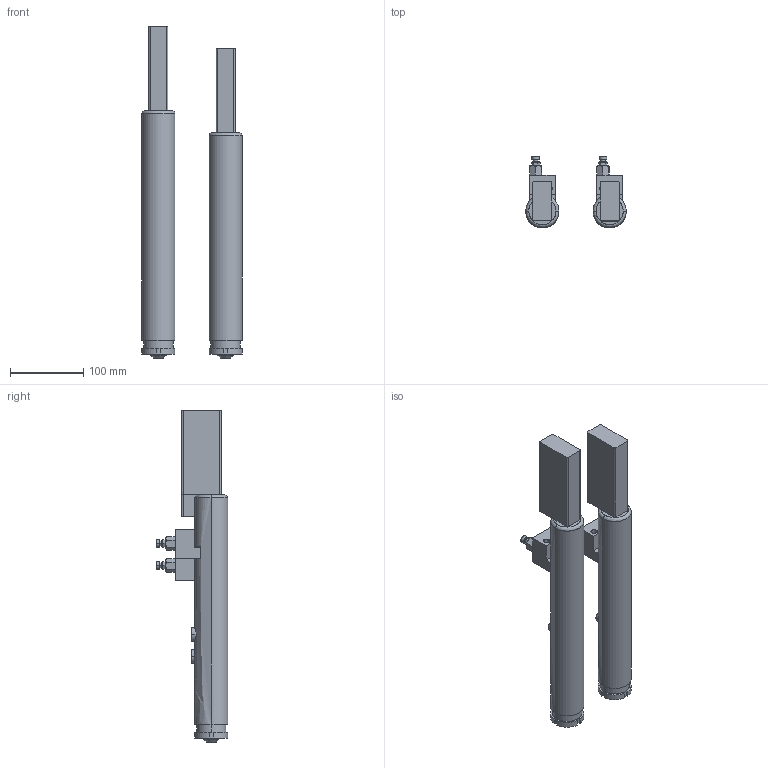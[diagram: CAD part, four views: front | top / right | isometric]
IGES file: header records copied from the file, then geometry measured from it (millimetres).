
Start section: SolidWorks IGES file using analytic representation for surfaces
Global section: file name: R:\Inventor\Kundmodeller Solidworks\BE21\BE 215-2111 and 2122-21220 with limit impulsers.IGS; native system: SolidWorks 2008; preprocessor: SolidWorks 2008; author: Johan; date: 090902.105631; units: millimetre
Bounding box: 136.51 x 97.5 x 451.9 mm (x, y, z)
Surface area: 213295.7 mm2 (no closed solid volume)
Topology: 0 solids, 0 shells, 662 faces, 8174 edges, 8146 vertices
Faces by surface type: bspline 428, revolution 234
